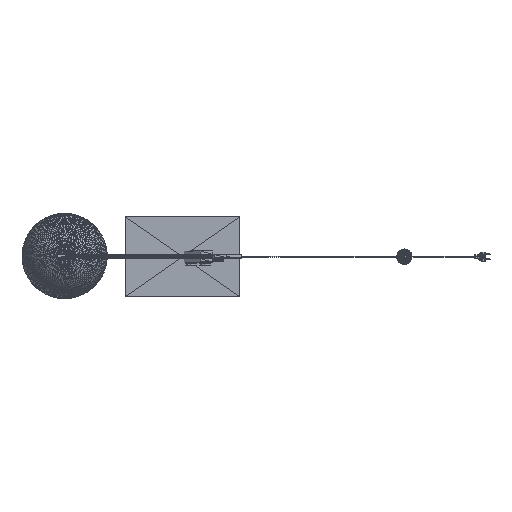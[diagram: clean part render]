
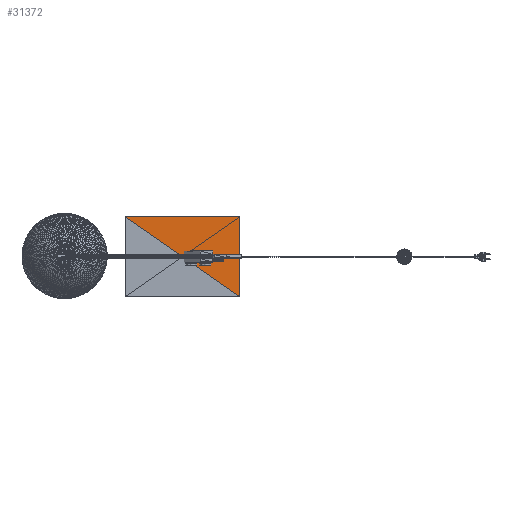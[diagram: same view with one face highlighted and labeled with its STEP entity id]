
A CAD part, top view. The second image highlights one B-rep face of the part: STEP entity #31372.
In plain terms, the highlighted planar face has unit normal (0, 0, 1).
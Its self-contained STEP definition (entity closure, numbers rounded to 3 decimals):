
#23190 = VERTEX_POINT('',#23191);
#23191 = CARTESIAN_POINT('',(855.119,323.026,
    6.));
#23198 = PLANE('',#23199);
#23199 = AXIS2_PLACEMENT_3D('',#23200,#23201,#23202);
#23200 = CARTESIAN_POINT('',(855.244,166.397,
    5.966));
#23201 = DIRECTION('',(0.259,0.,0.966)
  );
#23202 = DIRECTION('',(0.966,0.,-0.259)
  );
#23222 = EDGE_CURVE('',#23190,#23223,#23225,.T.);
#23223 = VERTEX_POINT('',#23224);
#23224 = CARTESIAN_POINT('',(855.119,10.026,
    6.));
#23225 = SURFACE_CURVE('',#23226,(#23230,#23237),.PCURVE_S1.);
#23226 = LINE('',#23227,#23228);
#23227 = CARTESIAN_POINT('',(855.119,323.026,
    6.));
#23228 = VECTOR('',#23229,1.);
#23229 = DIRECTION('',(0.,-1.,0.));
#23230 = PCURVE('',#23198,#23231);
#23231 = DEFINITIONAL_REPRESENTATION('',(#23232),#23236);
#23232 = LINE('',#23233,#23234);
#23233 = CARTESIAN_POINT('',(-0.129,156.629));
#23234 = VECTOR('',#23235,1.);
#23235 = DIRECTION('',(0.,-1.));
#23236 = ( GEOMETRIC_REPRESENTATION_CONTEXT(2) 
PARAMETRIC_REPRESENTATION_CONTEXT() REPRESENTATION_CONTEXT('2D SPACE',''
  ) );
#23237 = PCURVE('',#23238,#23243);
#23238 = PLANE('',#23239);
#23239 = AXIS2_PLACEMENT_3D('',#23240,#23241,#23242);
#23240 = CARTESIAN_POINT('',(684.742,220.149,
    6.));
#23241 = DIRECTION('',(0.,0.,1.));
#23242 = DIRECTION('',(0.,1.,0.));
#23243 = DEFINITIONAL_REPRESENTATION('',(#23244),#23248);
#23244 = LINE('',#23245,#23246);
#23245 = CARTESIAN_POINT('',(102.877,-170.378));
#23246 = VECTOR('',#23247,1.);
#23247 = DIRECTION('',(-1.,0.));
#23248 = ( GEOMETRIC_REPRESENTATION_CONTEXT(2) 
PARAMETRIC_REPRESENTATION_CONTEXT() REPRESENTATION_CONTEXT('2D SPACE',''
  ) );
#23346 = PLANE('',#23347);
#23347 = AXIS2_PLACEMENT_3D('',#23348,#23349,#23350);
#23348 = CARTESIAN_POINT('',(630.99,323.151,
    5.966));
#23349 = DIRECTION('',(0.,0.259,0.966)
  );
#23350 = DIRECTION('',(0.,0.966,-0.259));
#23371 = VERTEX_POINT('',#23372);
#23372 = CARTESIAN_POINT('',(407.119,323.026,
    6.));
#23398 = EDGE_CURVE('',#23371,#23190,#23399,.T.);
#23399 = SURFACE_CURVE('',#23400,(#23404,#23411),.PCURVE_S1.);
#23400 = LINE('',#23401,#23402);
#23401 = CARTESIAN_POINT('',(407.119,323.026,
    6.));
#23402 = VECTOR('',#23403,1.);
#23403 = DIRECTION('',(1.,0.,0.));
#23404 = PCURVE('',#23346,#23405);
#23405 = DEFINITIONAL_REPRESENTATION('',(#23406),#23410);
#23406 = LINE('',#23407,#23408);
#23407 = CARTESIAN_POINT('',(-0.13,223.871));
#23408 = VECTOR('',#23409,1.);
#23409 = DIRECTION('',(0.,-1.));
#23410 = ( GEOMETRIC_REPRESENTATION_CONTEXT(2) 
PARAMETRIC_REPRESENTATION_CONTEXT() REPRESENTATION_CONTEXT('2D SPACE',''
  ) );
#23411 = PCURVE('',#23238,#23412);
#23412 = DEFINITIONAL_REPRESENTATION('',(#23413),#23417);
#23413 = LINE('',#23414,#23415);
#23414 = CARTESIAN_POINT('',(102.877,277.623));
#23415 = VECTOR('',#23416,1.);
#23416 = DIRECTION('',(0.,-1.));
#23417 = ( GEOMETRIC_REPRESENTATION_CONTEXT(2) 
PARAMETRIC_REPRESENTATION_CONTEXT() REPRESENTATION_CONTEXT('2D SPACE',''
  ) );
#30395 = PLANE('',#30396);
#30396 = AXIS2_PLACEMENT_3D('',#30397,#30398,#30399);
#30397 = CARTESIAN_POINT('',(577.497,112.904,
    6.));
#30398 = DIRECTION('',(0.,0.,1.));
#30399 = DIRECTION('',(0.,1.,0.));
#31350 = EDGE_CURVE('',#23223,#23371,#31351,.T.);
#31351 = SURFACE_CURVE('',#31352,(#31356,#31363),.PCURVE_S1.);
#31352 = LINE('',#31353,#31354);
#31353 = CARTESIAN_POINT('',(855.119,10.026,
    6.));
#31354 = VECTOR('',#31355,1.);
#31355 = DIRECTION('',(-0.82,0.573,0.));
#31356 = PCURVE('',#30395,#31357);
#31357 = DEFINITIONAL_REPRESENTATION('',(#31358),#31362);
#31358 = LINE('',#31359,#31360);
#31359 = CARTESIAN_POINT('',(-102.877,-277.623));
#31360 = VECTOR('',#31361,1.);
#31361 = DIRECTION('',(0.573,0.82));
#31362 = ( GEOMETRIC_REPRESENTATION_CONTEXT(2) 
PARAMETRIC_REPRESENTATION_CONTEXT() REPRESENTATION_CONTEXT('2D SPACE',''
  ) );
#31363 = PCURVE('',#23238,#31364);
#31364 = DEFINITIONAL_REPRESENTATION('',(#31365),#31369);
#31365 = LINE('',#31366,#31367);
#31366 = CARTESIAN_POINT('',(-210.122,-170.378));
#31367 = VECTOR('',#31368,1.);
#31368 = DIRECTION('',(0.573,0.82));
#31369 = ( GEOMETRIC_REPRESENTATION_CONTEXT(2) 
PARAMETRIC_REPRESENTATION_CONTEXT() REPRESENTATION_CONTEXT('2D SPACE',''
  ) );
#31372 = ADVANCED_FACE('',(#31373),#23238,.T.);
#31373 = FACE_BOUND('',#31374,.T.);
#31374 = EDGE_LOOP('',(#31375,#31376,#31377));
#31375 = ORIENTED_EDGE('',*,*,#31350,.F.);
#31376 = ORIENTED_EDGE('',*,*,#23222,.F.);
#31377 = ORIENTED_EDGE('',*,*,#23398,.F.);
